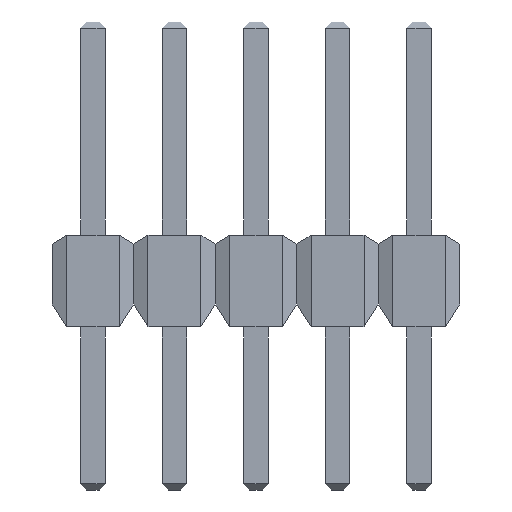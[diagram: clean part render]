
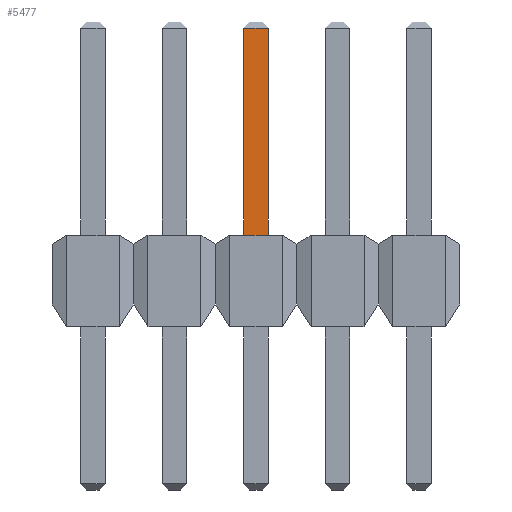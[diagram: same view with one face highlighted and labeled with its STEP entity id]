
A CAD part, front view. The second image highlights one B-rep face of the part: STEP entity #5477.
In plain terms, the highlighted planar face has unit normal (0, -1, 0).
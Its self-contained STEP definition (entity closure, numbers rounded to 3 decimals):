
#5147=CARTESIAN_POINT('',(5.461,-0.381,9.309));
#5146=VERTEX_POINT('',#5147);
#5243=CARTESIAN_POINT('',(4.699,-0.381,9.309));
#5242=VERTEX_POINT('',#5243);
#5290=EDGE_CURVE('',#5146,#5242,#5295,.T.);
#5295=LINE('',#5147,#5297);
#5297=VECTOR('',#5298,0.762);
#5298=DIRECTION('',(-1.0,0.0,0.0));
#5343=CARTESIAN_POINT('',(5.461,-0.381,2.862));
#5342=VERTEX_POINT('',#5343);
#5369=EDGE_CURVE('',#5342,#5146,#5374,.T.);
#5374=LINE('',#5343,#5376);
#5376=VECTOR('',#5377,6.447);
#5377=DIRECTION('',(0.0,0.0,1.0));
#5439=CARTESIAN_POINT('',(4.699,-0.381,2.862));
#5438=VERTEX_POINT('',#5439);
#5447=EDGE_CURVE('',#5242,#5438,#5452,.T.);
#5452=LINE('',#5243,#5454);
#5454=VECTOR('',#5455,6.447);
#5455=DIRECTION('',(0.0,0.0,-1.0));
#5477=ADVANCED_FACE('',(#5483),#5478,.T.);
#5478=PLANE('',#5479);
#5479=AXIS2_PLACEMENT_3D('',#5480,#5481,#5482);
#5480=CARTESIAN_POINT('',(4.699,-0.381,2.862));
#5481=DIRECTION('',(0.0,-1.0,0.0));
#5482=DIRECTION('',(0.,0.,1.));
#5483=FACE_OUTER_BOUND('',#5484,.T.);
#5484=EDGE_LOOP('',(#5485,#5495,#5505,#5515));
#5486=EDGE_CURVE('',#5342,#5438,#5491,.T.);
#5491=LINE('',#5343,#5493);
#5493=VECTOR('',#5494,0.762);
#5494=DIRECTION('',(-1.0,0.0,0.0));
#5485=ORIENTED_EDGE('',*,*,#5486,.F.);
#5495=ORIENTED_EDGE('',*,*,#5369,.T.);
#5505=ORIENTED_EDGE('',*,*,#5290,.T.);
#5515=ORIENTED_EDGE('',*,*,#5447,.T.);
